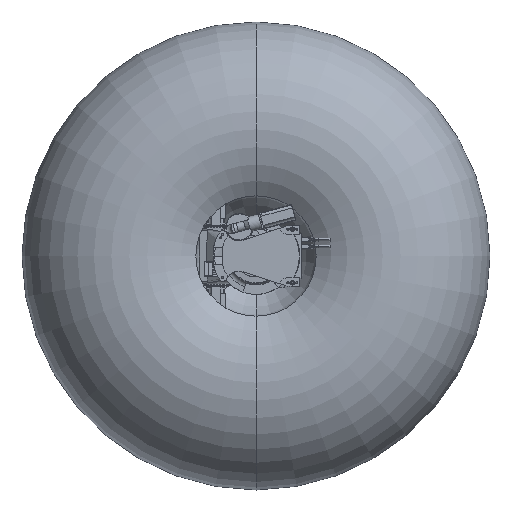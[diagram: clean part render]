
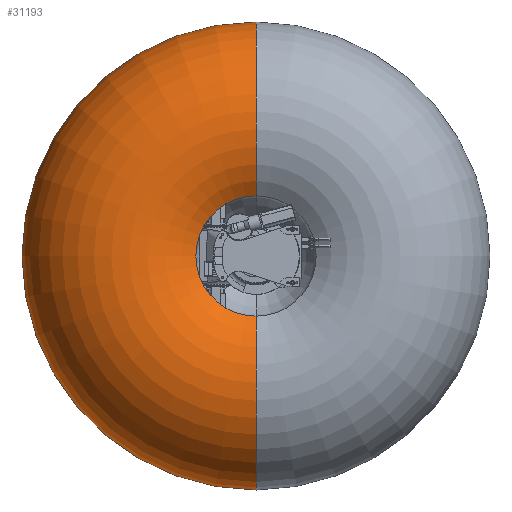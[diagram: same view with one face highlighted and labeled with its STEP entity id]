
A CAD part, front view. The second image highlights one B-rep face of the part: STEP entity #31193.
In plain terms, the highlighted toroidal (fillet/blend) face has major radius 1474.22 mm and minor radius 1230.66 mm.
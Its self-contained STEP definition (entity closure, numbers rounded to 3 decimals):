
#30575 = VERTEX_POINT ( 'NONE', #167299 ) ;
#30584 = EDGE_CURVE ( 'NONE', #30699, #30575, #167426, .T. ) ;
#30699 = VERTEX_POINT ( 'NONE', #167760 ) ;
#30704 = VERTEX_POINT ( 'NONE', #167759 ) ;
#30708 = EDGE_CURVE ( 'NONE', #30704, #30711, #167756, .T. ) ;
#30711 = VERTEX_POINT ( 'NONE', #167751 ) ;
#31124 = EDGE_CURVE ( 'NONE', #30711, #30575, #168466, .T. ) ;
#31187 = EDGE_CURVE ( 'NONE', #30704, #30699, #168582, .T. ) ;
#31193 = ADVANCED_FACE ( 'NONE', ( #168570 ), #168632, .T. ) ;
#31194 = EDGE_LOOP ( 'NONE', ( #31199, #31203, #31250, #31251 ) ) ;
#31199 = ORIENTED_EDGE ( 'NONE', *, *, #30708, .F. ) ;
#31203 = ORIENTED_EDGE ( 'NONE', *, *, #31187, .T. ) ;
#31250 = ORIENTED_EDGE ( 'NONE', *, *, #30584, .T. ) ;
#31251 = ORIENTED_EDGE ( 'NONE', *, *, #31124, .F. ) ;
#167299 = CARTESIAN_POINT ( 'NONE',  ( 0., 459.142, -695.091 ) ) ;
#167419 = DIRECTION ( 'NONE',  ( 0., 0., 1. ) ) ;
#167421 = DIRECTION ( 'NONE',  ( -1., 0., 0. ) ) ;
#167423 = CARTESIAN_POINT ( 'NONE',  ( 0., 1411.76, -1474.222 ) ) ;
#167424 = AXIS2_PLACEMENT_3D ( 'NONE', #167423, #167421, #167419 ) ;
#167426 = CIRCLE ( 'NONE', #167424, 1230.66 ) ;
#167751 = CARTESIAN_POINT ( 'NONE',  ( 0., 459.142, 695.091 ) ) ;
#167752 = DIRECTION ( 'NONE',  ( 0., 0., -1. ) ) ;
#167753 = DIRECTION ( 'NONE',  ( 1., 0., 0. ) ) ;
#167754 = CARTESIAN_POINT ( 'NONE',  ( 0., 1411.76, 1474.222 ) ) ;
#167755 = AXIS2_PLACEMENT_3D ( 'NONE', #167754, #167753, #167752 ) ;
#167756 = CIRCLE ( 'NONE', #167755, 1230.66 ) ;
#167759 = CARTESIAN_POINT ( 'NONE',  ( 0., 1341.365, 2702.867 ) ) ;
#167760 = CARTESIAN_POINT ( 'NONE',  ( 0., 1341.365, -2702.867 ) ) ;
#168450 = DIRECTION ( 'NONE',  ( 0., 0., -1. ) ) ;
#168451 = DIRECTION ( 'NONE',  ( 0., -1., 0. ) ) ;
#168452 = CARTESIAN_POINT ( 'NONE',  ( 0., 459.142, 0. ) ) ;
#168454 = AXIS2_PLACEMENT_3D ( 'NONE', #168452, #168451, #168450 ) ;
#168466 = CIRCLE ( 'NONE', #168454, 695.091 ) ;
#168570 = FACE_OUTER_BOUND ( 'NONE', #31194, .T. ) ;
#168571 = DIRECTION ( 'NONE',  ( 0., 0., -1. ) ) ;
#168572 = DIRECTION ( 'NONE',  ( 0., -1., 0. ) ) ;
#168573 = CARTESIAN_POINT ( 'NONE',  ( 0., 1341.365, 0. ) ) ;
#168574 = AXIS2_PLACEMENT_3D ( 'NONE', #168573, #168572, #168571 ) ;
#168582 = CIRCLE ( 'NONE', #168574, 2702.867 ) ;
#168629 = DIRECTION ( 'NONE',  ( 0., 0., -1. ) ) ;
#168630 = DIRECTION ( 'NONE',  ( 0., -1., 0. ) ) ;
#168631 = AXIS2_PLACEMENT_3D ( 'NONE', #168635, #168630, #168629 ) ;
#168632 = TOROIDAL_SURFACE ( 'NONE', #168631, 1474.222, 1230.66 ) ;
#168635 = CARTESIAN_POINT ( 'NONE',  ( 0., 1411.76, 0. ) ) ;
